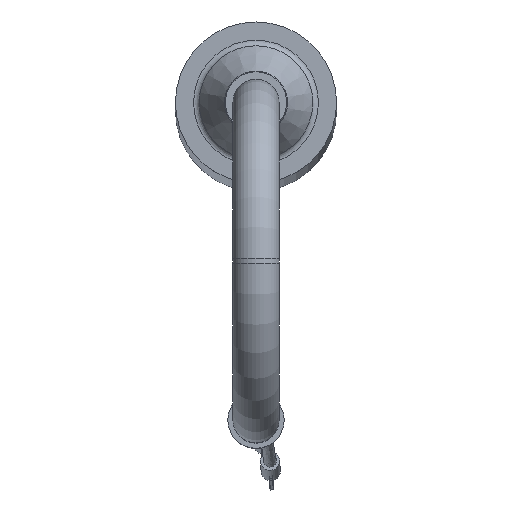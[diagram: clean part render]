
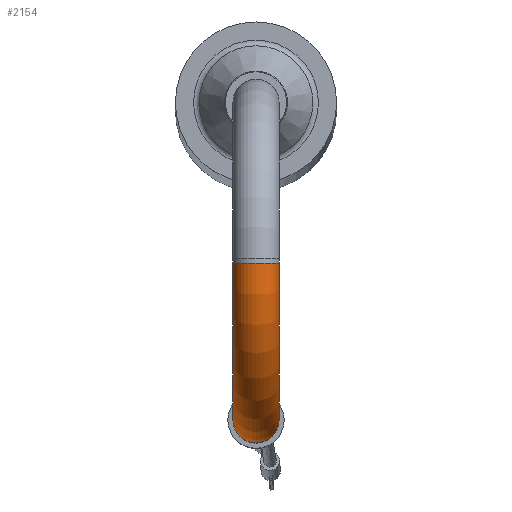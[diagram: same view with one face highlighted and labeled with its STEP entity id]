
A CAD part, top view. The second image highlights one B-rep face of the part: STEP entity #2154.
In plain terms, the highlighted toroidal (fillet/blend) face has major radius 12.319 mm and minor radius 1.816 mm.
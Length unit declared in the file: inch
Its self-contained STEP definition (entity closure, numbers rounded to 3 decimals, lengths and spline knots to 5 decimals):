
#88=TOROIDAL_SURFACE('',#2480,0.485,0.0715);
#512=FACE_OUTER_BOUND('',#652,.T.);
#652=EDGE_LOOP('',(#1614,#1615,#1616,#1617,#1618,#1619));
#759=CIRCLE('',#2478,0.0715);
#760=CIRCLE('',#2479,0.0715);
#761=CIRCLE('',#2481,0.4135);
#762=CIRCLE('',#2482,0.0715);
#763=CIRCLE('',#2483,0.0715);
#930=VERTEX_POINT('',#5057);
#931=VERTEX_POINT('',#5059);
#932=VERTEX_POINT('',#5063);
#933=VERTEX_POINT('',#5065);
#1175=EDGE_CURVE('',#930,#931,#759,.T.);
#1176=EDGE_CURVE('',#931,#930,#760,.T.);
#1177=EDGE_CURVE('',#931,#932,#761,.T.);
#1178=EDGE_CURVE('',#932,#933,#762,.T.);
#1179=EDGE_CURVE('',#933,#932,#763,.T.);
#1614=ORIENTED_EDGE('',*,*,#1176,.F.);
#1615=ORIENTED_EDGE('',*,*,#1177,.T.);
#1616=ORIENTED_EDGE('',*,*,#1178,.T.);
#1617=ORIENTED_EDGE('',*,*,#1179,.T.);
#1618=ORIENTED_EDGE('',*,*,#1177,.F.);
#1619=ORIENTED_EDGE('',*,*,#1175,.F.);
#2154=ADVANCED_FACE('',(#512),#88,.T.);
#2478=AXIS2_PLACEMENT_3D('',#5060,#2897,#2898);
#2479=AXIS2_PLACEMENT_3D('',#5061,#2899,#2900);
#2480=AXIS2_PLACEMENT_3D('',#5062,#2901,#2902);
#2481=AXIS2_PLACEMENT_3D('',#5064,#2903,#2904);
#2482=AXIS2_PLACEMENT_3D('',#5066,#2905,#2906);
#2483=AXIS2_PLACEMENT_3D('',#5067,#2907,#2908);
#2897=DIRECTION('center_axis',(0.,0.,-1.));
#2898=DIRECTION('ref_axis',(1.,0.,0.));
#2899=DIRECTION('center_axis',(0.,0.,-1.));
#2900=DIRECTION('ref_axis',(1.,0.,0.));
#2901=DIRECTION('center_axis',(1.,0.,0.));
#2902=DIRECTION('ref_axis',(0.,0.,-1.));
#2903=DIRECTION('center_axis',(-1.,0.,0.));
#2904=DIRECTION('ref_axis',(0.,0.,-1.));
#2905=DIRECTION('center_axis',(0.,-1.,0.));
#2906=DIRECTION('ref_axis',(1.,0.,0.));
#2907=DIRECTION('center_axis',(0.,-1.,0.));
#2908=DIRECTION('ref_axis',(1.,0.,0.));
#5057=CARTESIAN_POINT('',(-0.0715,-1.4715,0.55));
#5059=CARTESIAN_POINT('',(0.,-1.4,0.55));
#5060=CARTESIAN_POINT('Origin',(0.,-1.4715,0.55));
#5061=CARTESIAN_POINT('Origin',(0.,-1.4715,0.55));
#5062=CARTESIAN_POINT('Origin',(0.,-0.9865,0.55));
#5063=CARTESIAN_POINT('',(0.,-0.9865,0.9635));
#5064=CARTESIAN_POINT('Origin',(0.,-0.9865,0.55));
#5065=CARTESIAN_POINT('',(-0.0715,-0.9865,1.035));
#5066=CARTESIAN_POINT('Origin',(0.,-0.9865,1.035));
#5067=CARTESIAN_POINT('Origin',(0.,-0.9865,1.035));
